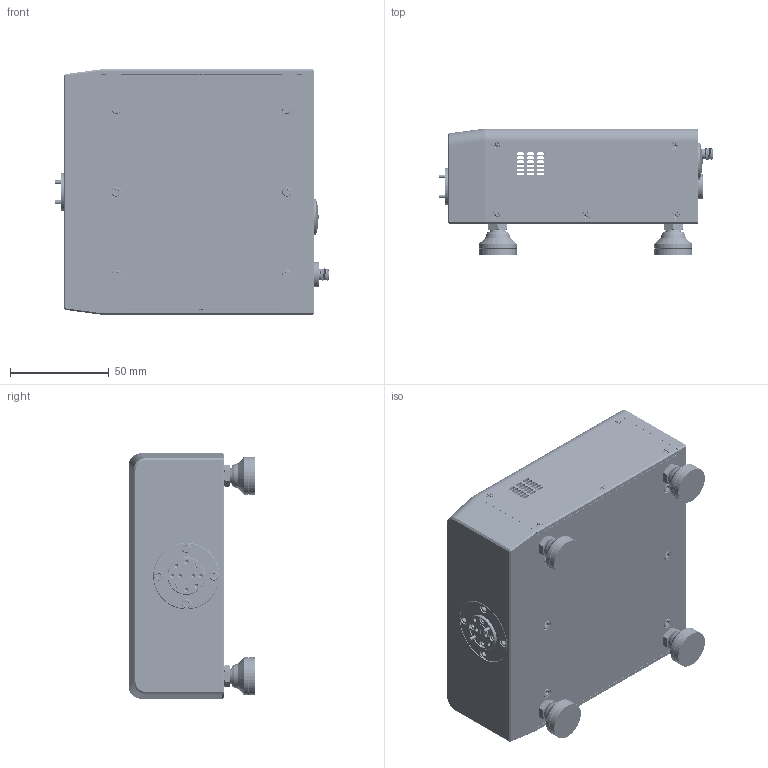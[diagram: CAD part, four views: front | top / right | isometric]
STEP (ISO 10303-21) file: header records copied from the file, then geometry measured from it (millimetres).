
FILE_DESCRIPTION (( 'STEP AP214' ), '1' );
FILE_NAME ('TC-W-A-IDP.STEP', '2026-01-02T22:33:51', ( '' ), ( '' ), 'SwSTEP 2.0', 'SolidWorks 2021', '' );
FILE_SCHEMA (( 'AUTOMOTIVE_DESIGN' ));
Length unit declared in the file: inch
Products named in the file (1): TC-W-A-IDP
Bounding box: 139.21 x 64.14 x 124.32 mm (x, y, z)
Volume: 283285.4 mm3; surface area: 148622.1 mm2
Topology: 50 solids, 50 shells, 3430 faces, 9232 edges, 5865 vertices
Faces by surface type: cylinder 1820, plane 890, cone 618, bspline 79, sphere 19, torus 4
Entity records: 203197 total; most frequent: CARTESIAN_POINT 80502, ORIENTED_EDGE 18024, DIRECTION 14406, EDGE_CURVE 9012, VERTEX_POINT 5840, AXIS2_PLACEMENT_3D 5324, EDGE_LOOP 3766, LINE 3758
